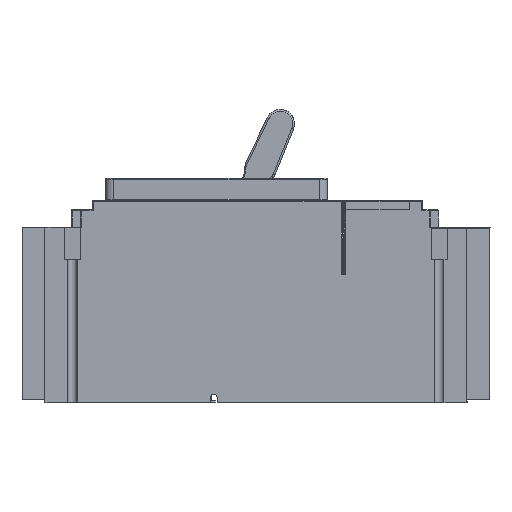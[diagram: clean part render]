
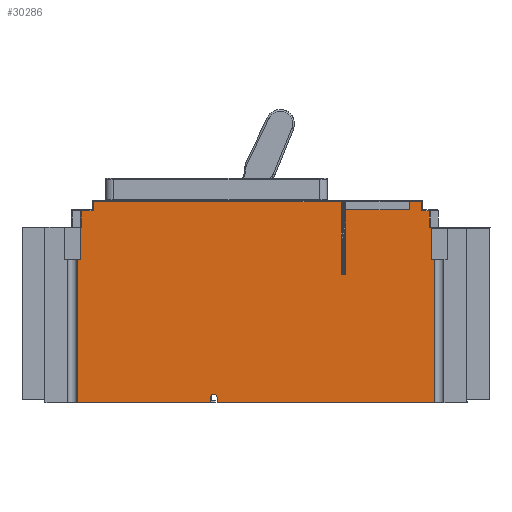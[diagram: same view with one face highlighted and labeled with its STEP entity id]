
A CAD part, left-side view. The second image highlights one B-rep face of the part: STEP entity #30286.
In plain terms, the highlighted planar face has unit normal (-1, 0, 0).
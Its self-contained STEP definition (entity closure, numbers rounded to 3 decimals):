
#5331=DIRECTION('',(0.,-1.,0.));
#5332=VECTOR('',#5331,2.395);
#5333=CARTESIAN_POINT('',(0.,81.108,69.8));
#5334=LINE('',#5333,#5332);
#5335=DIRECTION('',(0.,0.,1.));
#5336=VECTOR('',#5335,35.2);
#5337=CARTESIAN_POINT('',(0.,78.713,69.8));
#5338=LINE('',#5337,#5336);
#5339=DIRECTION('',(0.,0.,1.));
#5340=VECTOR('',#5339,4.5);
#5341=CARTESIAN_POINT('',(0.,43.91,105.));
#5342=LINE('',#5341,#5340);
#5343=DIRECTION('',(0.,0.,-1.));
#5344=VECTOR('',#5343,9.);
#5345=CARTESIAN_POINT('',(0.,33.119,104.5));
#5346=LINE('',#5345,#5344);
#5347=DIRECTION('',(0.,-1.,0.));
#5348=VECTOR('',#5347,1.128);
#5349=CARTESIAN_POINT('',(0.,33.119,95.5));
#5350=LINE('',#5349,#5348);
#5351=DIRECTION('',(0.,0.,-1.));
#5352=VECTOR('',#5351,17.5);
#5353=CARTESIAN_POINT('',(0.,31.991,95.5));
#5354=LINE('',#5353,#5352);
#5355=DIRECTION('',(0.,-1.,0.));
#5356=VECTOR('',#5355,1.825);
#5357=CARTESIAN_POINT('',(0.,31.991,78.));
#5358=LINE('',#5357,#5356);
#5359=DIRECTION('',(0.,0.,-1.));
#5360=VECTOR('',#5359,78.);
#5361=CARTESIAN_POINT('',(0.,30.167,78.));
#5362=LINE('',#5361,#5360);
#5363=DIRECTION('',(0.,1.,0.));
#5364=VECTOR('',#5363,118.583);
#5365=CARTESIAN_POINT('',(0.,30.167,0.));
#5366=LINE('',#5365,#5364);
#5367=CARTESIAN_POINT('',(0.,150.5,
2.918));
#5368=DIRECTION('',(-1.,0.,0.));
#5369=DIRECTION('',(0.,-1.,0.));
#5370=AXIS2_PLACEMENT_3D('',#5367,#5368,#5369);
#5372=CARTESIAN_POINT('',(0.,150.5,
2.918));
#5373=DIRECTION('',(-1.,0.,0.));
#5374=DIRECTION('',(0.,0.,1.));
#5375=AXIS2_PLACEMENT_3D('',#5372,#5373,#5374);
#5377=DIRECTION('',(0.,0.,-1.));
#5378=VECTOR('',#5377,2.918);
#5379=CARTESIAN_POINT('',(0.,152.25,2.918));
#5380=LINE('',#5379,#5378);
#5381=DIRECTION('',(0.,1.,0.));
#5382=VECTOR('',#5381,72.713);
#5383=CARTESIAN_POINT('',(0.,152.25,0.));
#5384=LINE('',#5383,#5382);
#5385=DIRECTION('',(0.,-1.,0.));
#5386=VECTOR('',#5385,0.351);
#5387=CARTESIAN_POINT('',(0.,223.009,95.5));
#5388=LINE('',#5387,#5386);
#5389=DIRECTION('',(0.,0.,1.));
#5390=VECTOR('',#5389,5.);
#5391=CARTESIAN_POINT('',(0.,216.216,104.5));
#5392=LINE('',#5391,#5390);
#5393=DIRECTION('',(0.,-1.,0.));
#5394=VECTOR('',#5393,135.108);
#5395=CARTESIAN_POINT('',(0.,216.216,
109.5));
#5396=LINE('',#5395,#5394);
#5397=DIRECTION('',(0.,0.,1.));
#5398=VECTOR('',#5397,39.7);
#5399=CARTESIAN_POINT('',(0.,81.108,69.8));
#5400=LINE('',#5399,#5398);
#5429=DIRECTION('',(0.,1.,0.));
#5430=VECTOR('',#5429,34.803);
#5431=CARTESIAN_POINT('',(0.,43.91,105.));
#5432=LINE('',#5431,#5430);
#8915=DIRECTION('',(0.,1.,0.));
#8916=VECTOR('',#8915,6.441);
#8917=CARTESIAN_POINT('',(0.,216.216,104.5));
#8918=LINE('',#8917,#8916);
#8959=DIRECTION('',(0.,0.,-1.));
#8960=VECTOR('',#8959,9.);
#8961=CARTESIAN_POINT('',(0.,222.657,104.5));
#8962=LINE('',#8961,#8960);
#8976=DIRECTION('',(0.,0.,-1.));
#8977=VECTOR('',#8976,17.5);
#8978=CARTESIAN_POINT('',(0.,223.009,95.5));
#8979=LINE('',#8978,#8977);
#8993=DIRECTION('',(0.,1.,0.));
#8994=VECTOR('',#8993,1.955);
#8995=CARTESIAN_POINT('',(0.,223.009,78.));
#8996=LINE('',#8995,#8994);
#9027=DIRECTION('',(0.,0.,-1.));
#9028=VECTOR('',#9027,78.);
#9029=CARTESIAN_POINT('',(0.,224.963,78.));
#9030=LINE('',#9029,#9028);
#10702=DIRECTION('',(0.,0.,-1.));
#10703=VECTOR('',#10702,2.918);
#10704=CARTESIAN_POINT('',(0.,148.75,
2.918));
#10705=LINE('',#10704,#10703);
#13425=DIRECTION('',(0.,1.,0.));
#13426=VECTOR('',#13425,4.214);
#13427=CARTESIAN_POINT('',(0.,33.119,104.5));
#13428=LINE('',#13427,#13426);
#13437=DIRECTION('',(0.,0.,1.));
#13438=VECTOR('',#13437,5.);
#13439=CARTESIAN_POINT('',(0.,37.334,104.5));
#13440=LINE('',#13439,#13438);
#13469=DIRECTION('',(0.,1.,0.));
#13470=VECTOR('',#13469,6.576);
#13471=CARTESIAN_POINT('',(0.,37.334,109.5));
#13472=LINE('',#13471,#13470);
#17465=CARTESIAN_POINT('',(0.,148.75,0.));
#17466=VERTEX_POINT('',#17465);
#17467=CARTESIAN_POINT('',(0.,30.167,0.));
#17468=VERTEX_POINT('',#17467);
#17687=CARTESIAN_POINT('',(0.,224.963,0.));
#17688=VERTEX_POINT('',#17687);
#17689=CARTESIAN_POINT('',(0.,152.25,0.));
#17690=VERTEX_POINT('',#17689);
#17948=CARTESIAN_POINT('',(0.,78.713,69.8));
#17949=VERTEX_POINT('',#17948);
#17950=CARTESIAN_POINT('',(0.,81.108,69.8));
#17951=VERTEX_POINT('',#17950);
#18281=CARTESIAN_POINT('',(0.,43.91,105.));
#18282=CARTESIAN_POINT('',(0.,43.91,109.5));
#18283=VERTEX_POINT('',#18281);
#18284=VERTEX_POINT('',#18282);
#18287=CARTESIAN_POINT('',(0.,81.108,
109.5));
#18288=VERTEX_POINT('',#18287);
#18289=CARTESIAN_POINT('',(0.,78.713,105.));
#18290=VERTEX_POINT('',#18289);
#18291=CARTESIAN_POINT('',(0.,37.334,109.5));
#18292=VERTEX_POINT('',#18291);
#18293=CARTESIAN_POINT('',(0.,37.334,104.5));
#18294=VERTEX_POINT('',#18293);
#18295=CARTESIAN_POINT('',(0.,33.119,104.5));
#18296=VERTEX_POINT('',#18295);
#18297=CARTESIAN_POINT('',(0.,33.119,95.5));
#18298=VERTEX_POINT('',#18297);
#18299=CARTESIAN_POINT('',(0.,31.991,95.5));
#18300=VERTEX_POINT('',#18299);
#18301=CARTESIAN_POINT('',(0.,31.991,78.));
#18302=VERTEX_POINT('',#18301);
#18303=CARTESIAN_POINT('',(0.,30.167,78.));
#18304=VERTEX_POINT('',#18303);
#18305=CARTESIAN_POINT('',(0.,148.75,
2.918));
#18306=VERTEX_POINT('',#18305);
#18307=CARTESIAN_POINT('',(0.,150.5,
4.668));
#18308=VERTEX_POINT('',#18307);
#18309=CARTESIAN_POINT('',(0.,152.25,
2.918));
#18310=VERTEX_POINT('',#18309);
#18311=CARTESIAN_POINT('',(0.,224.963,78.));
#18312=VERTEX_POINT('',#18311);
#18313=CARTESIAN_POINT('',(0.,223.009,78.));
#18314=VERTEX_POINT('',#18313);
#18315=CARTESIAN_POINT('',(0.,223.009,95.5));
#18316=VERTEX_POINT('',#18315);
#18317=CARTESIAN_POINT('',(0.,222.657,95.5));
#18318=VERTEX_POINT('',#18317);
#18319=CARTESIAN_POINT('',(0.,222.657,104.5));
#18320=VERTEX_POINT('',#18319);
#18321=CARTESIAN_POINT('',(0.,216.216,104.5));
#18322=VERTEX_POINT('',#18321);
#18323=CARTESIAN_POINT('',(0.,216.216,
109.5));
#18324=VERTEX_POINT('',#18323);
#30227=CARTESIAN_POINT('',(0.,224.963,0.));
#30228=DIRECTION('',(-1.,0.,0.));
#30229=DIRECTION('',(0.,-1.,0.));
#30230=AXIS2_PLACEMENT_3D('',#30227,#30228,#30229);
#30231=PLANE('',#30230);
#30233=ORIENTED_EDGE('',*,*,#30232,.F.);
#30234=ORIENTED_EDGE('',*,*,#29824,.T.);
#30236=ORIENTED_EDGE('',*,*,#30235,.T.);
#30238=ORIENTED_EDGE('',*,*,#30237,.F.);
#30240=ORIENTED_EDGE('',*,*,#30239,.T.);
#30242=ORIENTED_EDGE('',*,*,#30241,.F.);
#30244=ORIENTED_EDGE('',*,*,#30243,.F.);
#30246=ORIENTED_EDGE('',*,*,#30245,.F.);
#30248=ORIENTED_EDGE('',*,*,#30247,.T.);
#30250=ORIENTED_EDGE('',*,*,#30249,.T.);
#30252=ORIENTED_EDGE('',*,*,#30251,.T.);
#30254=ORIENTED_EDGE('',*,*,#30253,.T.);
#30256=ORIENTED_EDGE('',*,*,#30255,.T.);
#30258=ORIENTED_EDGE('',*,*,#30257,.T.);
#30260=ORIENTED_EDGE('',*,*,#30259,.F.);
#30262=ORIENTED_EDGE('',*,*,#30261,.T.);
#30264=ORIENTED_EDGE('',*,*,#30263,.T.);
#30266=ORIENTED_EDGE('',*,*,#30265,.T.);
#30268=ORIENTED_EDGE('',*,*,#30267,.T.);
#30270=ORIENTED_EDGE('',*,*,#30269,.F.);
#30272=ORIENTED_EDGE('',*,*,#30271,.F.);
#30274=ORIENTED_EDGE('',*,*,#30273,.F.);
#30276=ORIENTED_EDGE('',*,*,#30275,.T.);
#30278=ORIENTED_EDGE('',*,*,#30277,.F.);
#30280=ORIENTED_EDGE('',*,*,#30279,.F.);
#30282=ORIENTED_EDGE('',*,*,#30281,.T.);
#30283=ORIENTED_EDGE('',*,*,#30219,.T.);
#30284=EDGE_LOOP('',(#30233,#30234,#30236,#30238,#30240,#30242,#30244,#30246,
#30248,#30250,#30252,#30254,#30256,#30258,#30260,#30262,#30264,#30266,#30268,
#30270,#30272,#30274,#30276,#30278,#30280,#30282,#30283));
#30285=FACE_OUTER_BOUND('',#30284,.F.);
#30286=ADVANCED_FACE('',(#30285),#30231,.T.);
#5371=CIRCLE('',#5370,1.75);
#5376=CIRCLE('',#5375,1.75);
#29824=EDGE_CURVE('',#17951,#17949,#5334,.T.);
#30219=EDGE_CURVE('',#18324,#18288,#5396,.T.);
#30232=EDGE_CURVE('',#17951,#18288,#5400,.T.);
#30235=EDGE_CURVE('',#17949,#18290,#5338,.T.);
#30237=EDGE_CURVE('',#18283,#18290,#5432,.T.);
#30239=EDGE_CURVE('',#18283,#18284,#5342,.T.);
#30241=EDGE_CURVE('',#18292,#18284,#13472,.T.);
#30243=EDGE_CURVE('',#18294,#18292,#13440,.T.);
#30245=EDGE_CURVE('',#18296,#18294,#13428,.T.);
#30247=EDGE_CURVE('',#18296,#18298,#5346,.T.);
#30249=EDGE_CURVE('',#18298,#18300,#5350,.T.);
#30251=EDGE_CURVE('',#18300,#18302,#5354,.T.);
#30253=EDGE_CURVE('',#18302,#18304,#5358,.T.);
#30255=EDGE_CURVE('',#18304,#17468,#5362,.T.);
#30257=EDGE_CURVE('',#17468,#17466,#5366,.T.);
#30259=EDGE_CURVE('',#18306,#17466,#10705,.T.);
#30261=EDGE_CURVE('',#18306,#18308,#5371,.T.);
#30263=EDGE_CURVE('',#18308,#18310,#5376,.T.);
#30265=EDGE_CURVE('',#18310,#17690,#5380,.T.);
#30267=EDGE_CURVE('',#17690,#17688,#5384,.T.);
#30269=EDGE_CURVE('',#18312,#17688,#9030,.T.);
#30271=EDGE_CURVE('',#18314,#18312,#8996,.T.);
#30273=EDGE_CURVE('',#18316,#18314,#8979,.T.);
#30275=EDGE_CURVE('',#18316,#18318,#5388,.T.);
#30277=EDGE_CURVE('',#18320,#18318,#8962,.T.);
#30279=EDGE_CURVE('',#18322,#18320,#8918,.T.);
#30281=EDGE_CURVE('',#18322,#18324,#5392,.T.);
